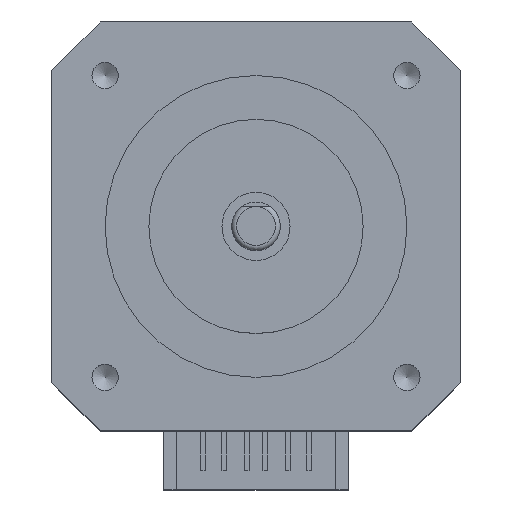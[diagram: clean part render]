
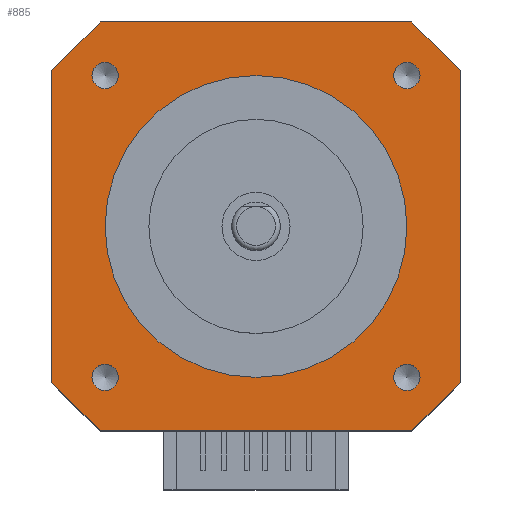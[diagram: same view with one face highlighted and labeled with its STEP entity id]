
A CAD part, top view. The second image highlights one B-rep face of the part: STEP entity #885.
In plain terms, the highlighted planar face has unit normal (0, 0, 1).
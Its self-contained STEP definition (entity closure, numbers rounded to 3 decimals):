
#329=LINE('',#3910,#644);
#330=LINE('',#3913,#645);
#331=LINE('',#3915,#646);
#332=LINE('',#3917,#647);
#333=LINE('',#3919,#648);
#334=LINE('',#3921,#649);
#335=LINE('',#3923,#650);
#336=LINE('',#3925,#651);
#644=VECTOR('',#3128,1.);
#645=VECTOR('',#3129,1.);
#646=VECTOR('',#3130,1.);
#647=VECTOR('',#3131,1.);
#648=VECTOR('',#3132,1.);
#649=VECTOR('',#3133,1.);
#650=VECTOR('',#3134,1.);
#651=VECTOR('',#3135,1.);
#885=ADVANCED_FACE('',(#1184,#1185,#1186,#1187,#1188,#1189),#1038,.F.);
#1038=PLANE('',#2824);
#1184=FACE_BOUND('',#1274,.T.);
#1185=FACE_BOUND('',#1275,.T.);
#1186=FACE_BOUND('',#1276,.T.);
#1187=FACE_BOUND('',#1277,.T.);
#1188=FACE_BOUND('',#1278,.T.);
#1189=FACE_BOUND('',#1279,.T.);
#1274=EDGE_LOOP('',(#1552));
#1275=EDGE_LOOP('',(#1553));
#1276=EDGE_LOOP('',(#1554));
#1277=EDGE_LOOP('',(#1555));
#1278=EDGE_LOOP('',(#1556,#1557,#1558,#1559,#1560,#1561,#1562,#1563));
#1279=EDGE_LOOP('',(#1564));
#1552=ORIENTED_EDGE('',*,*,#2505,.T.);
#1553=ORIENTED_EDGE('',*,*,#2506,.T.);
#1554=ORIENTED_EDGE('',*,*,#2507,.T.);
#1555=ORIENTED_EDGE('',*,*,#2508,.T.);
#1556=ORIENTED_EDGE('',*,*,#2509,.F.);
#1557=ORIENTED_EDGE('',*,*,#2510,.T.);
#1558=ORIENTED_EDGE('',*,*,#2511,.F.);
#1559=ORIENTED_EDGE('',*,*,#2512,.T.);
#1560=ORIENTED_EDGE('',*,*,#2513,.F.);
#1561=ORIENTED_EDGE('',*,*,#2514,.T.);
#1562=ORIENTED_EDGE('',*,*,#2515,.F.);
#1563=ORIENTED_EDGE('',*,*,#2516,.T.);
#1564=ORIENTED_EDGE('',*,*,#2517,.T.);
#2251=VERTEX_POINT('',#3903);
#2252=VERTEX_POINT('',#3905);
#2253=VERTEX_POINT('',#3907);
#2254=VERTEX_POINT('',#3909);
#2255=VERTEX_POINT('',#3911);
#2256=VERTEX_POINT('',#3912);
#2257=VERTEX_POINT('',#3914);
#2258=VERTEX_POINT('',#3916);
#2259=VERTEX_POINT('',#3918);
#2260=VERTEX_POINT('',#3920);
#2261=VERTEX_POINT('',#3922);
#2262=VERTEX_POINT('',#3924);
#2263=VERTEX_POINT('',#3927);
#2505=EDGE_CURVE('',#2251,#2251,#2772,.T.);
#2506=EDGE_CURVE('',#2252,#2252,#2773,.T.);
#2507=EDGE_CURVE('',#2253,#2253,#2774,.T.);
#2508=EDGE_CURVE('',#2254,#2254,#2775,.T.);
#2509=EDGE_CURVE('',#2255,#2256,#329,.T.);
#2510=EDGE_CURVE('',#2255,#2257,#330,.T.);
#2511=EDGE_CURVE('',#2258,#2257,#331,.T.);
#2512=EDGE_CURVE('',#2258,#2259,#332,.T.);
#2513=EDGE_CURVE('',#2260,#2259,#333,.T.);
#2514=EDGE_CURVE('',#2260,#2261,#334,.T.);
#2515=EDGE_CURVE('',#2262,#2261,#335,.T.);
#2516=EDGE_CURVE('',#2262,#2256,#336,.T.);
#2517=EDGE_CURVE('',#2263,#2263,#2776,.T.);
#2772=CIRCLE('',#2819,1.35);
#2773=CIRCLE('',#2820,1.35);
#2774=CIRCLE('',#2821,1.35);
#2775=CIRCLE('',#2822,1.35);
#2776=CIRCLE('',#2823,15.5);
#2819=AXIS2_PLACEMENT_3D('',#3902,#3120,#3121);
#2820=AXIS2_PLACEMENT_3D('',#3904,#3122,#3123);
#2821=AXIS2_PLACEMENT_3D('',#3906,#3124,#3125);
#2822=AXIS2_PLACEMENT_3D('',#3908,#3126,#3127);
#2823=AXIS2_PLACEMENT_3D('',#3926,#3136,#3137);
#2824=AXIS2_PLACEMENT_3D('',#3928,#3138,#3139);
#3120=DIRECTION('',(0.,0.,-1.));
#3121=DIRECTION('',(-1.,0.,0.));
#3122=DIRECTION('',(0.,0.,-1.));
#3123=DIRECTION('',(-1.,0.,0.));
#3124=DIRECTION('',(0.,0.,-1.));
#3125=DIRECTION('',(-1.,0.,0.));
#3126=DIRECTION('',(0.,0.,-1.));
#3127=DIRECTION('',(-1.,0.,0.));
#3128=DIRECTION('',(1.,0.,0.));
#3129=DIRECTION('',(-0.707,-0.707,0.));
#3130=DIRECTION('',(0.,1.,0.));
#3131=DIRECTION('',(0.707,-0.707,0.));
#3132=DIRECTION('',(-1.,0.,0.));
#3133=DIRECTION('',(0.707,0.707,0.));
#3134=DIRECTION('',(0.,-1.,0.));
#3135=DIRECTION('',(-0.707,0.707,0.));
#3136=DIRECTION('',(0.,0.,-1.));
#3137=DIRECTION('',(1.,0.,0.));
#3138=DIRECTION('',(0.,0.,-1.));
#3139=DIRECTION('',(-1.,0.,0.));
#3902=CARTESIAN_POINT('',(15.5,-15.5,0.));
#3903=CARTESIAN_POINT('',(14.15,-15.5,0.));
#3904=CARTESIAN_POINT('',(15.5,15.5,0.));
#3905=CARTESIAN_POINT('',(14.15,15.5,0.));
#3906=CARTESIAN_POINT('',(-15.5,15.5,0.));
#3907=CARTESIAN_POINT('',(-16.85,15.5,0.));
#3908=CARTESIAN_POINT('',(-15.5,-15.5,0.));
#3909=CARTESIAN_POINT('',(-16.85,-15.5,0.));
#3910=CARTESIAN_POINT('',(-21.,21.,0.));
#3911=CARTESIAN_POINT('',(-16.,21.,0.));
#3912=CARTESIAN_POINT('',(16.,21.,0.));
#3913=CARTESIAN_POINT('',(-16.,21.,0.));
#3914=CARTESIAN_POINT('',(-21.,16.,0.));
#3915=CARTESIAN_POINT('',(-21.,-21.,0.));
#3916=CARTESIAN_POINT('',(-21.,-16.,0.));
#3917=CARTESIAN_POINT('',(-21.,-16.,0.));
#3918=CARTESIAN_POINT('',(-16.,-21.,0.));
#3919=CARTESIAN_POINT('',(21.,-21.,0.));
#3920=CARTESIAN_POINT('',(16.,-21.,0.));
#3921=CARTESIAN_POINT('',(16.,-21.,0.));
#3922=CARTESIAN_POINT('',(21.,-16.,0.));
#3923=CARTESIAN_POINT('',(21.,21.,0.));
#3924=CARTESIAN_POINT('',(21.,16.,0.));
#3925=CARTESIAN_POINT('',(21.,16.,0.));
#3926=CARTESIAN_POINT('',(0.,0.,0.));
#3927=CARTESIAN_POINT('',(15.5,0.,0.));
#3928=CARTESIAN_POINT('',(-21.,-21.,0.));
